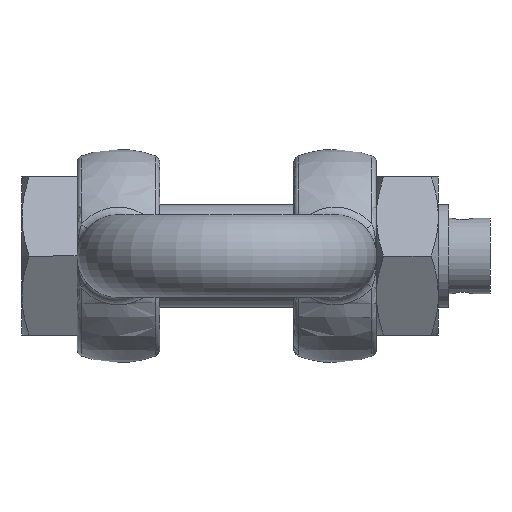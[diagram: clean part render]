
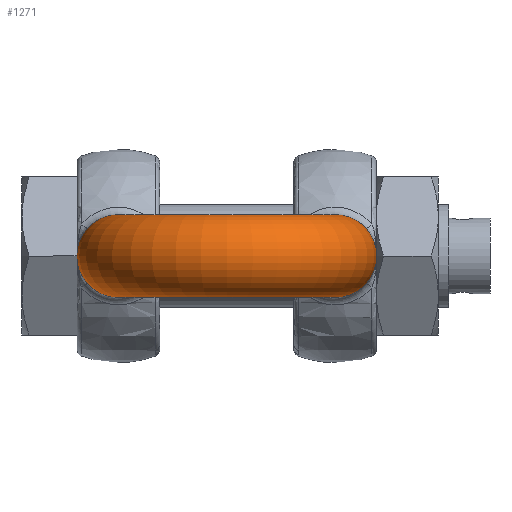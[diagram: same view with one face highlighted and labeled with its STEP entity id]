
A CAD part, front view. The second image highlights one B-rep face of the part: STEP entity #1271.
In plain terms, the highlighted toroidal (fillet/blend) face has major radius 31.5 mm and minor radius 12 mm.
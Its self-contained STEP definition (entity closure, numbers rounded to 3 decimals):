
#122=TOROIDAL_SURFACE('',#1442,31.5,12.);
#233=FACE_OUTER_BOUND('',#320,.T.);
#320=EDGE_LOOP('',(#1018,#1019,#1020,#1021,#1022,#1023));
#477=CIRCLE('',#1440,12.);
#478=CIRCLE('',#1441,12.);
#479=CIRCLE('',#1443,19.5);
#480=CIRCLE('',#1444,12.);
#481=CIRCLE('',#1445,12.);
#570=VERTEX_POINT('',#2884);
#571=VERTEX_POINT('',#2886);
#572=VERTEX_POINT('',#2890);
#573=VERTEX_POINT('',#2892);
#730=EDGE_CURVE('',#570,#571,#477,.T.);
#731=EDGE_CURVE('',#571,#570,#478,.T.);
#732=EDGE_CURVE('',#571,#572,#479,.T.);
#733=EDGE_CURVE('',#572,#573,#480,.T.);
#734=EDGE_CURVE('',#573,#572,#481,.T.);
#1018=ORIENTED_EDGE('',*,*,#731,.F.);
#1019=ORIENTED_EDGE('',*,*,#732,.T.);
#1020=ORIENTED_EDGE('',*,*,#733,.T.);
#1021=ORIENTED_EDGE('',*,*,#734,.T.);
#1022=ORIENTED_EDGE('',*,*,#732,.F.);
#1023=ORIENTED_EDGE('',*,*,#730,.F.);
#1271=ADVANCED_FACE('',(#233),#122,.T.);
#1440=AXIS2_PLACEMENT_3D('',#2887,#1671,#1672);
#1441=AXIS2_PLACEMENT_3D('',#2888,#1673,#1674);
#1442=AXIS2_PLACEMENT_3D('',#2889,#1675,#1676);
#1443=AXIS2_PLACEMENT_3D('',#2891,#1677,#1678);
#1444=AXIS2_PLACEMENT_3D('',#2893,#1679,#1680);
#1445=AXIS2_PLACEMENT_3D('',#2894,#1681,#1682);
#1671=DIRECTION('center_axis',(0.,1.,0.));
#1672=DIRECTION('ref_axis',(1.,0.,0.));
#1673=DIRECTION('center_axis',(0.,1.,0.));
#1674=DIRECTION('ref_axis',(1.,0.,0.));
#1675=DIRECTION('center_axis',(0.,0.,-1.));
#1676=DIRECTION('ref_axis',(-1.,0.,0.));
#1677=DIRECTION('center_axis',(0.,0.,1.));
#1678=DIRECTION('ref_axis',(-1.,0.,0.));
#1679=DIRECTION('center_axis',(0.,-1.,0.));
#1680=DIRECTION('ref_axis',(-1.,0.,0.));
#1681=DIRECTION('center_axis',(0.,-1.,0.));
#1682=DIRECTION('ref_axis',(-1.,0.,0.));
#2884=CARTESIAN_POINT('',(-43.5,43.5,0.));
#2886=CARTESIAN_POINT('',(-19.5,43.5,0.));
#2887=CARTESIAN_POINT('Origin',(-31.5,43.5,0.));
#2888=CARTESIAN_POINT('Origin',(-31.5,43.5,0.));
#2889=CARTESIAN_POINT('Origin',(0.,43.5,0.));
#2890=CARTESIAN_POINT('',(19.5,43.5,0.));
#2891=CARTESIAN_POINT('Origin',(0.,43.5,0.));
#2892=CARTESIAN_POINT('',(43.5,43.5,0.));
#2893=CARTESIAN_POINT('Origin',(31.5,43.5,0.));
#2894=CARTESIAN_POINT('Origin',(31.5,43.5,0.));
